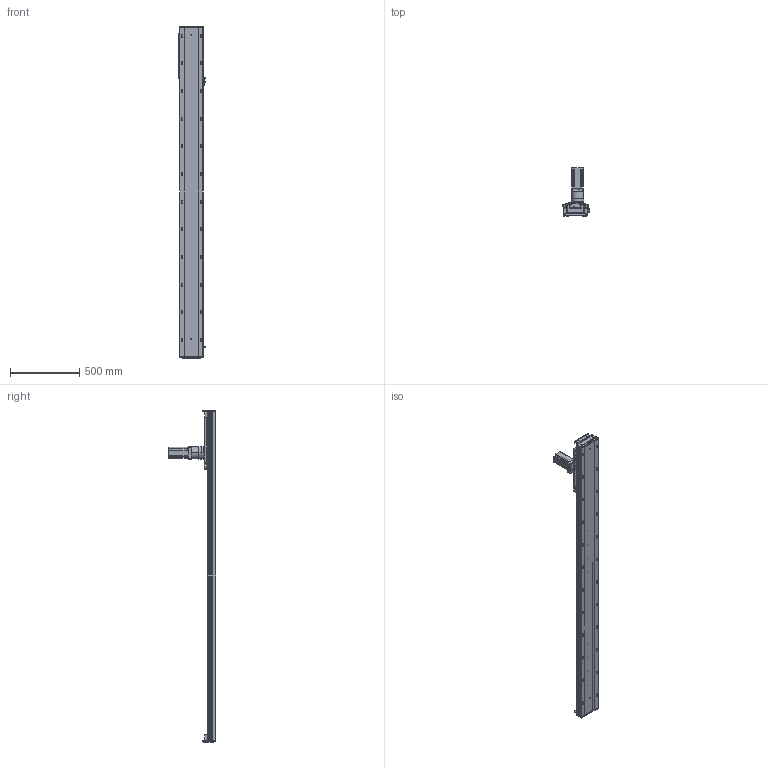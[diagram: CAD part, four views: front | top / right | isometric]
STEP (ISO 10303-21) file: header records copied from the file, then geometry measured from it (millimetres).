
FILE_DESCRIPTION (( 'STEP AP203' ), '1' );
FILE_NAME ('RY170-C-1000-UK.SLDASM_1900.step', '2021-03-03T00:47:02', ( '盈信电脑' ), ( '东莞市道滘镇水果街19号' ), 'SwSTEP 2.0', 'SolidWorks 2012', '' );
FILE_SCHEMA (( 'CONFIG_CONTROL_DESIGN' ));
Length unit declared in the file: millimetre
Products named in the file (13): RY170-C-1000-UK.SLDASM_1900; 左旋斜齿齿轮_M2_22齿_内孔20; RY170-喘沭賑輸; TF080等撰; 怢湛750W萇儂ㄗ80遺ㄘ; RY170-喘沭滅袉蝶輸; RY170外置感应片(200共用）; RY170-喘謫萇儂覃誹啣; RY170-1000-喘沭耀郪絳寢EGH20CA_1900; RY170綴裔啣ㄗ蜊秶ㄘ; 覜茼ん672; 絳寢賑輸EGH20CA; RY170-1000齿条模组型材底座_1900
Assembly tree (22 placements, depth 2):
  RY170-C-1000-UK.SLDASM_1900
    RY170-1000齿条模组型材底座_1900
    絳寢賑輸EGH20CA  x6
    RY170-1000-喘沭耀郪絳寢EGH20CA_1900  x2
    RY170綴裔啣ㄗ蜊秶ㄘ  x2
    覜茼ん672  x3
    RY170外置感应片(200共用）
    RY170-喘謫萇儂覃誹啣
    怢湛750W萇儂ㄗ80遺ㄘ
    RY170-喘沭滅袉蝶輸  x2
    TF080等撰
    左旋斜齿齿轮_M2_22齿_内孔20
    RY170-喘沭賑輸
Bounding box: 188.7 x 343.5 x 2400 mm (x, y, z)
Volume: 13132545 mm3; surface area: 3269554.4 mm2
Topology: 24 solids, 24 shells, 4303 faces, 12014 edges, 7703 vertices
Faces by surface type: plane 2097, cylinder 1834, cone 318, bspline 50, torus 4
Entity records: 95766 total; most frequent: CARTESIAN_POINT 22199, ORIENTED_EDGE 15310, DIRECTION 14890, EDGE_CURVE 7655, AXIS2_PLACEMENT_3D 5481, VERTEX_POINT 4981, VECTOR 3928, LINE 3928
